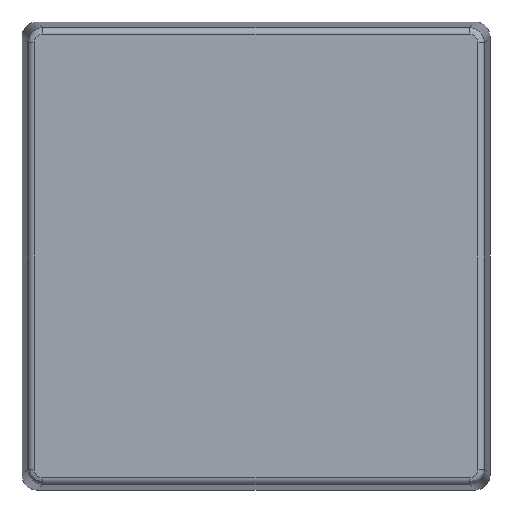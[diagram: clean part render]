
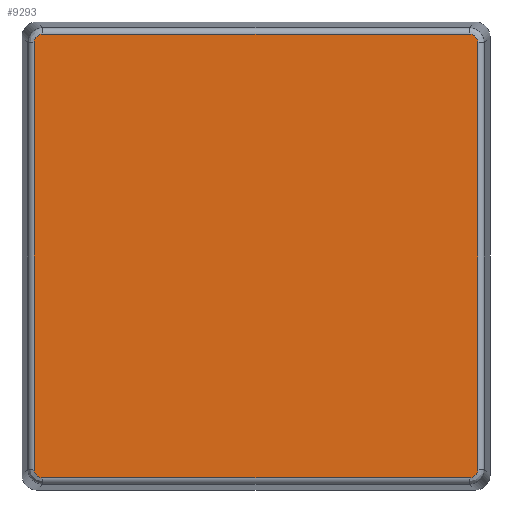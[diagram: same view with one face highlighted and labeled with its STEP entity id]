
A CAD part, front view. The second image highlights one B-rep face of the part: STEP entity #9293.
In plain terms, the highlighted planar face has unit normal (0, -1, 0) as drawn and (0, 0, -1) by its records, which use the part's own axes.
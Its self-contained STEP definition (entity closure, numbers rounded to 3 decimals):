
#69=ELLIPSE('',#9822,3.505,3.5);
#71=ELLIPSE('',#9826,3.505,3.5);
#72=ELLIPSE('',#9829,3.505,3.5);
#73=ELLIPSE('',#9832,3.505,3.5);
#559=LINE('',#20258,#1172);
#566=LINE('',#20379,#1179);
#567=LINE('',#20414,#1180);
#569=LINE('',#20417,#1182);
#1172=VECTOR('',#11284,171.353);
#1179=VECTOR('',#11325,171.353);
#1180=VECTOR('',#11332,171.353);
#1182=VECTOR('',#11336,171.353);
#1686=PLANE('',#9835);
#2114=FACE_OUTER_BOUND('',#2698,.T.);
#2698=EDGE_LOOP('',(#7783,#7784,#7785,#7786,#7787,#7788,#7789,#7790));
#4282=VERTEX_POINT('',#20256);
#4283=VERTEX_POINT('',#20257);
#4284=VERTEX_POINT('',#20299);
#4286=VERTEX_POINT('',#20303);
#4288=VERTEX_POINT('',#20340);
#4289=VERTEX_POINT('',#20373);
#4290=VERTEX_POINT('',#20375);
#4291=VERTEX_POINT('',#20410);
#5495=EDGE_CURVE('',#4282,#4283,#559,.T.);
#5506=EDGE_CURVE('',#4286,#4284,#69,.T.);
#5510=EDGE_CURVE('',#4283,#4288,#71,.T.);
#5513=EDGE_CURVE('',#4290,#4289,#72,.T.);
#5514=EDGE_CURVE('',#4284,#4290,#566,.T.);
#5516=EDGE_CURVE('',#4291,#4282,#73,.T.);
#5517=EDGE_CURVE('',#4289,#4291,#567,.T.);
#5519=EDGE_CURVE('',#4288,#4286,#569,.T.);
#7783=ORIENTED_EDGE('',*,*,#5514,.F.);
#7784=ORIENTED_EDGE('',*,*,#5506,.F.);
#7785=ORIENTED_EDGE('',*,*,#5519,.F.);
#7786=ORIENTED_EDGE('',*,*,#5510,.F.);
#7787=ORIENTED_EDGE('',*,*,#5495,.F.);
#7788=ORIENTED_EDGE('',*,*,#5516,.F.);
#7789=ORIENTED_EDGE('',*,*,#5517,.F.);
#7790=ORIENTED_EDGE('',*,*,#5513,.F.);
#9293=ADVANCED_FACE('',(#2114),#1686,.F.);
#9822=AXIS2_PLACEMENT_3D('',#20305,#11306,#11307);
#9826=AXIS2_PLACEMENT_3D('',#20342,#11315,#11316);
#9829=AXIS2_PLACEMENT_3D('',#20377,#11321,#11322);
#9832=AXIS2_PLACEMENT_3D('',#20412,#11328,#11329);
#9835=AXIS2_PLACEMENT_3D('',#20418,#11337,#11338);
#11284=DIRECTION('',(0.,1.,0.));
#11306=DIRECTION('center_axis',(0.,0.,1.));
#11307=DIRECTION('ref_axis',(-0.707,0.707,0.));
#11315=DIRECTION('center_axis',(0.,0.,1.));
#11316=DIRECTION('ref_axis',(0.707,0.707,0.));
#11321=DIRECTION('center_axis',(0.,0.,1.));
#11322=DIRECTION('ref_axis',(-0.707,-0.707,0.));
#11325=DIRECTION('',(0.,-1.,0.));
#11328=DIRECTION('center_axis',(0.,0.,1.));
#11329=DIRECTION('ref_axis',(0.707,-0.707,0.));
#11332=DIRECTION('',(1.,0.,0.));
#11336=DIRECTION('',(-1.,0.,0.));
#11337=DIRECTION('center_axis',(0.,0.,1.));
#11338=DIRECTION('ref_axis',(1.,0.,0.));
#20256=CARTESIAN_POINT('',(89.174,-85.677,-63.));
#20257=CARTESIAN_POINT('',(89.174,85.677,-63.));
#20258=CARTESIAN_POINT('',(89.174,-47.,-63.));
#20299=CARTESIAN_POINT('',(-89.174,85.677,-63.));
#20303=CARTESIAN_POINT('',(-85.677,89.174,-63.));
#20305=CARTESIAN_POINT('Origin',(-85.671,85.671,-63.));
#20340=CARTESIAN_POINT('',(85.677,89.174,-63.));
#20342=CARTESIAN_POINT('Origin',(85.671,85.671,-63.));
#20373=CARTESIAN_POINT('',(-85.677,-89.174,-63.));
#20375=CARTESIAN_POINT('',(-89.174,-85.677,-63.));
#20377=CARTESIAN_POINT('Origin',(-85.671,-85.671,-63.));
#20379=CARTESIAN_POINT('',(-89.174,0.,-63.));
#20410=CARTESIAN_POINT('',(85.677,-89.174,-63.));
#20412=CARTESIAN_POINT('Origin',(85.671,-85.671,-63.));
#20414=CARTESIAN_POINT('',(-47.,-89.174,-63.));
#20417=CARTESIAN_POINT('',(0.,89.174,-63.));
#20418=CARTESIAN_POINT('Origin',(0.,0.,
-63.));
